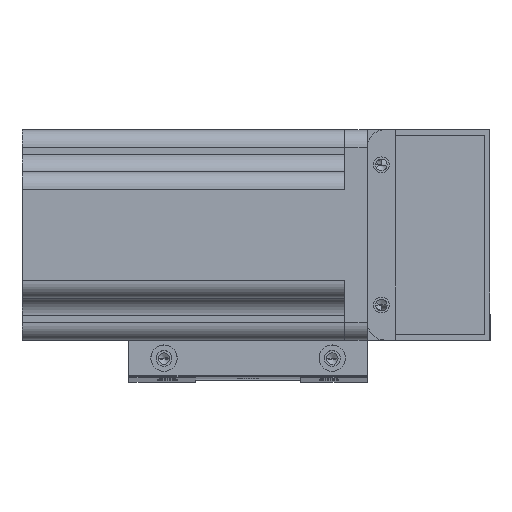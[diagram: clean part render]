
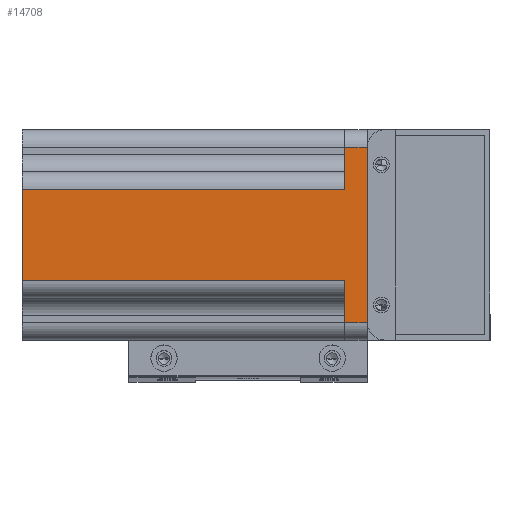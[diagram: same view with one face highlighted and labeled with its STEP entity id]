
A CAD part, top view. The second image highlights one B-rep face of the part: STEP entity #14708.
In plain terms, the highlighted planar face has unit normal (0, 0, 1) as drawn and (0, 1, 0) by its records, which use the part's own axes.
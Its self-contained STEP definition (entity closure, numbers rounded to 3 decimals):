
#292 = VECTOR ( 'NONE', #20054, 1000. ) ;
#537 = ORIENTED_EDGE ( 'NONE', *, *, #12944, .F. ) ;
#563 = DIRECTION ( 'NONE',  ( 0., 0., 1. ) ) ;
#1059 = PLANE ( 'NONE',  #3237 ) ;
#2964 = ORIENTED_EDGE ( 'NONE', *, *, #17510, .T. ) ;
#3237 = AXIS2_PLACEMENT_3D ( 'NONE', #16566, #12294, #3295 ) ;
#3244 = CARTESIAN_POINT ( 'NONE',  ( 13., 30., -92. ) ) ;
#3295 = DIRECTION ( 'NONE',  ( 0., 0., -1. ) ) ;
#3401 = CARTESIAN_POINT ( 'NONE',  ( -25., 30., 0. ) ) ;
#4175 = ORIENTED_EDGE ( 'NONE', *, *, #16959, .T. ) ;
#5325 = VECTOR ( 'NONE', #25562, 1000. ) ;
#6237 = VERTEX_POINT ( 'NONE', #17573 ) ;
#6404 = VERTEX_POINT ( 'NONE', #13329 ) ;
#6594 = LINE ( 'NONE', #7605, #7264 ) ;
#6720 = EDGE_CURVE ( 'NONE', #8821, #21807, #14062, .T. ) ;
#6984 = CARTESIAN_POINT ( 'NONE',  ( -18., 30., -92. ) ) ;
#7242 = CARTESIAN_POINT ( 'NONE',  ( 25., 30., 6.5 ) ) ;
#7264 = VECTOR ( 'NONE', #9745, 1000. ) ;
#7605 = CARTESIAN_POINT ( 'NONE',  ( -25., 30., 6.5 ) ) ;
#7695 = CARTESIAN_POINT ( 'NONE',  ( -25., 30., 6.5 ) ) ;
#7772 = EDGE_CURVE ( 'NONE', #17357, #16866, #20568, .T. ) ;
#8157 = DIRECTION ( 'NONE',  ( -1., 0., 0. ) ) ;
#8163 = VECTOR ( 'NONE', #17766, 1000. ) ;
#8788 = ORIENTED_EDGE ( 'NONE', *, *, #19625, .F. ) ;
#8821 = VERTEX_POINT ( 'NONE', #22404 ) ;
#9745 = DIRECTION ( 'NONE',  ( 0., 0., -1. ) ) ;
#10830 = FACE_OUTER_BOUND ( 'NONE', #12004, .T. ) ;
#11627 = EDGE_CURVE ( 'NONE', #17271, #17357, #20041, .T. ) ;
#11742 = ORIENTED_EDGE ( 'NONE', *, *, #19498, .F. ) ;
#11964 = CARTESIAN_POINT ( 'NONE',  ( 25., 30., 6.5 ) ) ;
#12004 = EDGE_LOOP ( 'NONE', ( #16668, #4175, #537, #2964, #23055, #11742, #8788, #21185 ) ) ;
#12294 = DIRECTION ( 'NONE',  ( 0., -1., 0. ) ) ;
#12629 = CARTESIAN_POINT ( 'NONE',  ( 13., 30., 0. ) ) ;
#12944 = EDGE_CURVE ( 'NONE', #6404, #28485, #15457, .T. ) ;
#13329 = CARTESIAN_POINT ( 'NONE',  ( -13., 30., -92. ) ) ;
#14062 = LINE ( 'NONE', #23761, #20974 ) ;
#14708 = ADVANCED_FACE ( 'NONE', ( #10830 ), #1059, .F. ) ;
#14716 = LINE ( 'NONE', #22542, #19213 ) ;
#15267 = VECTOR ( 'NONE', #23207, 1000. ) ;
#15457 = LINE ( 'NONE', #6984, #8163 ) ;
#16566 = CARTESIAN_POINT ( 'NONE',  ( -25., 30., 6.5 ) ) ;
#16668 = ORIENTED_EDGE ( 'NONE', *, *, #7772, .T. ) ;
#16866 = VERTEX_POINT ( 'NONE', #12629 ) ;
#16959 = EDGE_CURVE ( 'NONE', #16866, #28485, #14716, .T. ) ;
#17271 = VERTEX_POINT ( 'NONE', #11964 ) ;
#17357 = VERTEX_POINT ( 'NONE', #19231 ) ;
#17510 = EDGE_CURVE ( 'NONE', #6404, #8821, #24707, .T. ) ;
#17573 = CARTESIAN_POINT ( 'NONE',  ( -25., 30., 6.5 ) ) ;
#17766 = DIRECTION ( 'NONE',  ( 1., 0., 0. ) ) ;
#19213 = VECTOR ( 'NONE', #24787, 1000. ) ;
#19231 = CARTESIAN_POINT ( 'NONE',  ( 25., 30., 0. ) ) ;
#19498 = EDGE_CURVE ( 'NONE', #6237, #21807, #6594, .T. ) ;
#19625 = EDGE_CURVE ( 'NONE', #17271, #6237, #27712, .T. ) ;
#20041 = LINE ( 'NONE', #7242, #292 ) ;
#20054 = DIRECTION ( 'NONE',  ( 0., 0., -1. ) ) ;
#20548 = VECTOR ( 'NONE', #563, 1000. ) ;
#20568 = LINE ( 'NONE', #3401, #5325 ) ;
#20974 = VECTOR ( 'NONE', #8157, 1000. ) ;
#21185 = ORIENTED_EDGE ( 'NONE', *, *, #11627, .T. ) ;
#21807 = VERTEX_POINT ( 'NONE', #23629 ) ;
#22404 = CARTESIAN_POINT ( 'NONE',  ( -13., 30., 0. ) ) ;
#22542 = CARTESIAN_POINT ( 'NONE',  ( 13., 30., 6.5 ) ) ;
#23055 = ORIENTED_EDGE ( 'NONE', *, *, #6720, .T. ) ;
#23207 = DIRECTION ( 'NONE',  ( -1., 0., 0. ) ) ;
#23629 = CARTESIAN_POINT ( 'NONE',  ( -25., 30., 0. ) ) ;
#23761 = CARTESIAN_POINT ( 'NONE',  ( -25., 30., 0. ) ) ;
#24707 = LINE ( 'NONE', #25047, #20548 ) ;
#24787 = DIRECTION ( 'NONE',  ( 0., 0., -1. ) ) ;
#25047 = CARTESIAN_POINT ( 'NONE',  ( -13., 30., 6.5 ) ) ;
#25562 = DIRECTION ( 'NONE',  ( -1., 0., 0. ) ) ;
#27712 = LINE ( 'NONE', #7695, #15267 ) ;
#28485 = VERTEX_POINT ( 'NONE', #3244 ) ;
